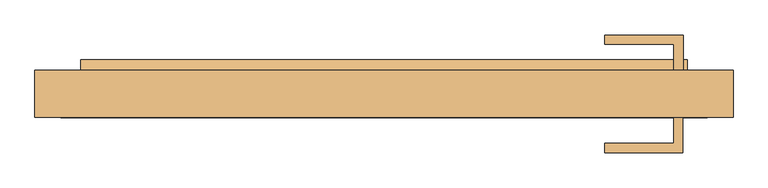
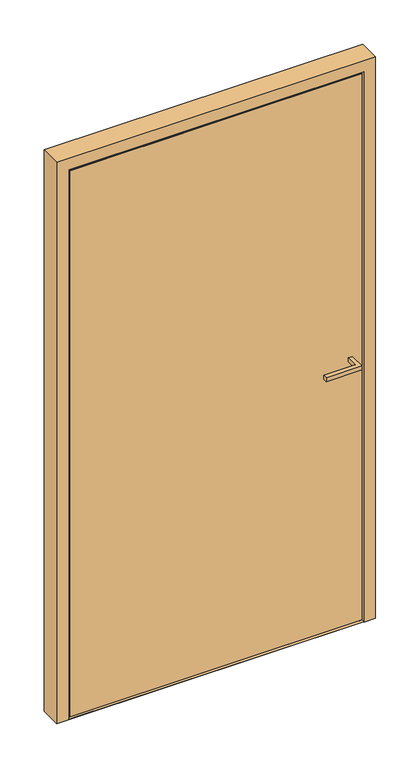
"""IFC4 building model written with IfcOpenShell, lengths in millimetres: door geometry, Reynaers_MasterLine 8_Door_Panel_Inward Opening_Single Vent_Double Sided : Reynaers_MasterLine 8_Door_Panel_Inward Opening_Single Vent_Double Sided."""

from ifc_helpers import new_model, si_unit, point, frame, frame_2d, origin, place, context, project, spatial, polyline, circle_curve, trimmed, segment, composite_curve, outline, extrude, faceted_brep, source, transform, mapped, element, save


def door_7a2a8935(model_context):
    return source(origin(), model_context, "Body", "SolidModel", [
        extrude(outline(polyline([(488.2934348, 42.5), (473.2934348, 42.5), (473.2934348, 85.0), (360.7934348, 85.0), (360.7934348, 100.0), (488.2934348, 100.0), (488.2934348, 42.5)])), frame((0.0, 0.0, 1001.0), z_axis=(0.0, 0.0, 1.0), x_axis=(1.0, 0.0, 0.0)), (0.0, 0.0, 1.0), 15.0),
        extrude(outline(polyline([(488.0, -34.5), (488.0, -92.0), (360.5, -92.0), (360.5, -77.0), (473.0, -77.0), (473.0, -34.5), (488.0, -34.5)])), frame((0.0, 0.0, 1001.0), z_axis=(0.0, 0.0, 1.0), x_axis=(1.0, 0.0, 0.0)), (0.0, 0.0, 1.0), 15.0),
        faceted_brep([(516.5, -25.7, 2.4610726), (516.5, -25.5, 2.4715542), (-516.5, -25.5, 2.4715542), (-516.5, -25.7, 2.4610726), (-527.5, -25.7, 2.4610726), (-527.5, -34.5, 1.9998842), (527.5, -34.5, 1.9998842), (527.5, -25.7, 2.4610726), (516.5, -25.5, 12.0), (-516.5, -25.5, 12.0), (516.5, 28.5392099, 12.0), (-516.5, 28.5392099, 12.0), (516.5, 34.7418048, 19.3919648), (-516.5, 34.7418048, 19.3919648), (501.5, 38.7001836, 16.6202782), (501.5, 42.5, 13.9596181), (-501.5, 42.5, 13.9596181), (-501.5, 38.7001836, 16.6202782), (-516.5, 38.7001836, 16.6202782), (516.5, 38.7001836, 16.6202782), (501.5, 42.5, 1.0), (-501.5, 42.5, 1.0), (501.5, 38.7001836, 1.0), (516.5, 38.7001836, 1.0), (516.5, -25.7, 1.0), (527.5, -25.7, 1.0), (527.5, -34.5, 1.0), (-527.5, -34.5, 1.0), (-527.5, -25.7, 1.0), (-516.5, -25.7, 1.0), (-516.5, 38.7001836, 1.0), (-501.5, 38.7001836, 1.0)], [[[0, 1, 2, 3, 4, 5, 6, 7]], [[1, 8, 9, 2]], [[8, 10, 11, 9]], [[10, 12, 13, 11]], [[14, 15, 16, 17, 18, 13, 12, 19]], [[15, 20, 21, 16]], [[20, 22, 23, 24, 25, 26, 27, 28, 29, 30, 31, 21]], [[26, 6, 5, 27]], [[14, 22, 20, 15]], [[22, 14, 19, 23]], [[23, 19, 12, 10, 8, 1, 0, 24]], [[24, 0, 7, 25]], [[25, 7, 6, 26]], [[31, 17, 16, 21]], [[17, 31, 30, 18]], [[18, 30, 29, 3, 2, 9, 11, 13]], [[3, 29, 28, 4]], [[4, 28, 27, 5]]]),
        extrude(outline(composite_curve([segment(polyline([(42.5, 37.0), (42.5, 38.787494), (59.5, 32.6), (59.5, 24.0), (32.5709002, 24.0)]), True, "CONTINUOUS"), segment(trimmed(circle_curve(frame_2d((32.1934432, 20.6338261)), 3.3872704), [point((32.5709002, 24.0))], [point((31.3243396, 17.3599508))], False, "CARTESIAN"), True, "CONTINUOUS"), segment(trimmed(circle_curve(frame_2d((33.8621384, 25.8049286)), 8.8180539), [point((31.3243396, 17.3599508))], [point((26.5318662, 20.9033795))], False, "CARTESIAN"), True, "CONTINUOUS"), segment(trimmed(circle_curve(frame_2d((18.2237753, 13.7442131)), 10.9671344), [point((26.5318662, 20.9033795))], [point((23.1220903, 23.5566821))], True, "CARTESIAN"), True, "CONTINUOUS"), segment(polyline([(23.1220903, 23.5566821), (23.1220903, 24.6), (33.7, 24.6), (33.7, 34.6420471), (42.5, 37.0)]), True, "CONTINUOUS")], self_intersect=False)), frame((-495.5, 0.0, 0.0), z_axis=(1.0, 0.0, 0.0), x_axis=(0.0, 1.0, 0.0)), (0.0, 0.0, 1.0), 991.0),
        faceted_brep([(-501.5, 38.7001836, 0.0), (-516.5, 38.7001836, 0.0), (-516.5, -25.7, 0.0), (-527.5, -25.7, 0.0), (-527.5, -34.5, 0.0), (-570.0, -34.5, 0.0), (-570.0, 42.5, 0.0), (-501.5, 42.5, 0.0), (-501.5, 38.7001836, 2051.5), (501.5, 38.7001836, 2051.5), (501.5, 38.7001836, 0.0), (516.5, 38.7001836, 0.0), (516.5, 38.7001836, 2066.5), (-516.5, 38.7001836, 2066.5), (-570.0, -34.5, 2120.0), (-570.0, 42.5, 2120.0), (570.0, 42.5, 2120.0), (570.0, 42.5, 0.0), (501.5, 42.5, 0.0), (501.5, 42.5, 2051.5), (-501.5, 42.5, 2051.5), (570.0, -34.5, 2120.0), (570.0, -34.5, 0.0), (527.5, -34.5, 0.0), (527.5, -25.7, 0.0), (516.5, -25.7, 0.0), (-516.5, -25.7, 2066.5), (-527.5, -34.5, 2077.5), (527.5, -34.5, 2077.5), (516.5, -25.7, 2066.5), (527.5, -25.7, 2077.5), (-527.5, -25.7, 2077.5)], [[[0, 1, 2, 3, 4, 5, 6, 7]], [[1, 0, 8, 9, 10, 11, 12, 13]], [[6, 5, 14, 15]], [[7, 6, 15, 16, 17, 18, 19, 20]], [[0, 7, 20, 8]], [[15, 14, 21, 16]], [[8, 20, 19, 9]], [[10, 18, 17, 22, 23, 24, 25, 11]], [[16, 21, 22, 17]], [[9, 19, 18, 10]], [[2, 1, 13, 26]], [[5, 4, 27, 28, 23, 22, 21, 14]], [[26, 13, 12, 29]], [[29, 12, 11, 25]], [[3, 2, 26, 29, 25, 24, 30, 31]], [[4, 3, 31, 27]], [[27, 31, 30, 28]], [[28, 30, 24, 23]]]),
        faceted_brep([(-444.0, -31.5, 1994.0), (-444.0, 39.5, 1994.0), (444.0, 39.5, 1994.0), (444.0, -31.5, 1994.0), (-495.5, -25.7, 2045.5), (-495.5, -31.5, 2045.5), (495.5, -31.5, 2045.5), (495.5, -25.7, 2045.5), (444.0, 39.5, 88.0), (444.0, -31.5, 88.0), (495.5, -31.5, 36.5), (495.5, -25.7, 36.5), (-444.0, 39.5, 88.0), (-444.0, -31.5, 88.0), (-495.5, -31.5, 36.5), (-495.5, -25.7, 36.5), (-506.5, -25.7, 2056.5), (-506.5, -25.7, 25.5), (506.5, -25.7, 25.5), (506.5, -25.7, 2056.5), (-506.5, 33.7001837, 2056.5), (506.5, 33.7001837, 2056.5), (-495.5, 39.5, 2045.5), (-495.5, 33.7001837, 2045.5), (495.5, 33.7001837, 2045.5), (495.5, 39.5, 2045.5), (506.5, 33.7001837, 25.5), (495.5, 33.7001837, 36.5), (495.5, 39.5, 36.5), (-506.5, 33.7001837, 25.5), (-495.5, 33.7001837, 36.5), (-495.5, 39.5, 36.5)], [[[0, 1, 2, 3]], [[4, 5, 6, 7]], [[3, 2, 8, 9]], [[7, 6, 10, 11]], [[9, 8, 12, 13]], [[11, 10, 14, 15]], [[13, 12, 1, 0]], [[5, 14, 10, 6], [3, 9, 13, 0]], [[15, 14, 5, 4]], [[16, 17, 18, 19], [7, 11, 15, 4]], [[20, 16, 19, 21]], [[22, 23, 24, 25]], [[21, 19, 18, 26]], [[25, 24, 27, 28]], [[26, 18, 17, 29]], [[28, 27, 30, 31]], [[29, 17, 16, 20]], [[21, 26, 29, 20], [23, 30, 27, 24]], [[31, 30, 23, 22]], [[25, 28, 31, 22], [1, 12, 8, 2]]]),
        extrude(outline(polyline([(495.5, 42.5), (495.5, 39.5), (-495.5, 39.5), (-495.5, 42.5), (495.5, 42.5)])), frame((0.0, 0.0, 37.0), z_axis=(0.0, 0.0, 1.0), x_axis=(1.0, 0.0, 0.0)), (0.0, 0.0, 1.0), 2008.5),
        extrude(outline(polyline([(521.5, -31.5), (521.5, -34.5), (-521.5, -34.5), (-521.5, -31.5), (521.5, -31.5)])), frame((0.0, 0.0, 10.5), z_axis=(0.0, 0.0, 1.0), x_axis=(1.0, 0.0, 0.0)), (0.0, 0.0, 1.0), 2061.0),
        extrude(outline(polyline([(439.0, -31.5), (-439.0, -31.5), (-439.0, 39.5), (439.0, 39.5), (439.0, -31.5)])), frame((0.0, 0.0, 93.0), z_axis=(0.0, 0.0, 1.0), x_axis=(1.0, 0.0, 0.0)), (0.0, 0.0, 1.0), 1896.0),
    ])


if __name__ == "__main__":
    model = new_model("IFC4")
    model_context = context("Model", 3, world=origin())
    ifc_project = project(units=[si_unit("LENGTHUNIT", "METRE", prefix="MILLI")], contexts=[model_context])
    site = spatial("IfcSite", under=ifc_project)
    building = spatial("IfcBuilding", under=site)
    placement = place(None, origin())
    door_shape = door_7a2a8935(model_context)
    element("IfcDoor", 1, ObjectType="Reynaers_MasterLine 8_Door_Panel_Inward Opening_Single Vent_Double Sided : Reynaers_MasterLine 8_Door_Panel_Inward Opening_Single Vent_Double Sided", at=placement, inside=building, context=model_context, shape_type="MappedRepresentation", body=[
        mapped(door_shape, transform((0.0, 0.0, 0.0), x_axis=(1.0, 0.0, 0.0), y_axis=(0.0, 1.0, 0.0), z_axis=(0.0, 0.0, 1.0))),
    ])
    save(model, "model.ifc")
